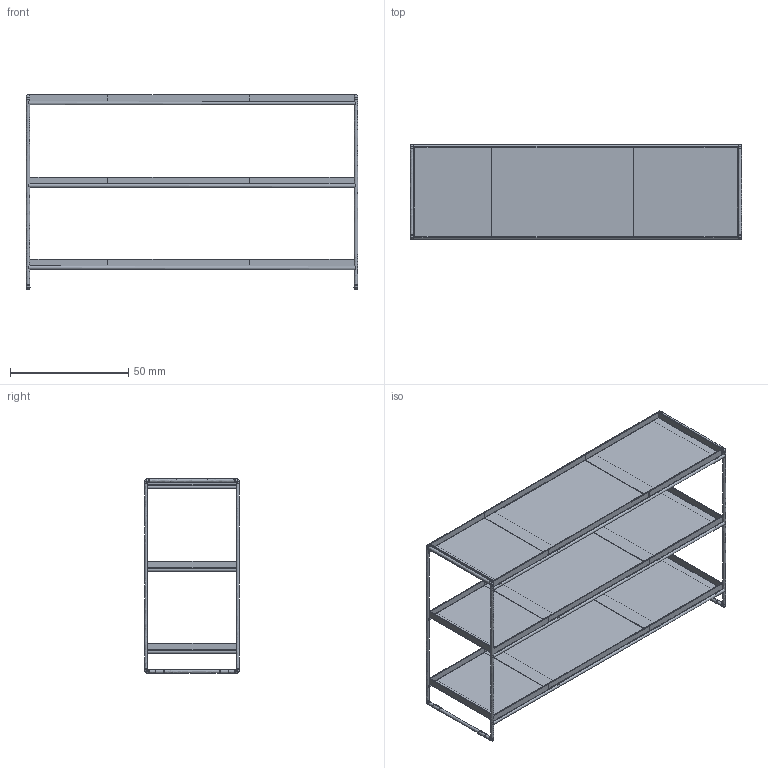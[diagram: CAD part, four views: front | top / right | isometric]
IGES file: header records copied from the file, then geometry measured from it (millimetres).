
Global section: file name: D:\3ddFactory\3D_Kartell\Ex-novo_3dd\trays\4418\Trays_3d_Piero Lissoni_Kartell.igs; native system: Rhinoceros ( Mar 10 2014 ); preprocessor: Trout Lake IGES 012 Mar 10 2014; date: 180215.154822; units: millimetre
Bounding box: 140.3 x 40 x 82.4 mm (x, y, z)
Surface area: 46055.1 mm2 (no closed solid volume)
Topology: 0 solids, 0 shells, 476 faces, 3540 edges, 3394 vertices
Faces by surface type: bspline 476
